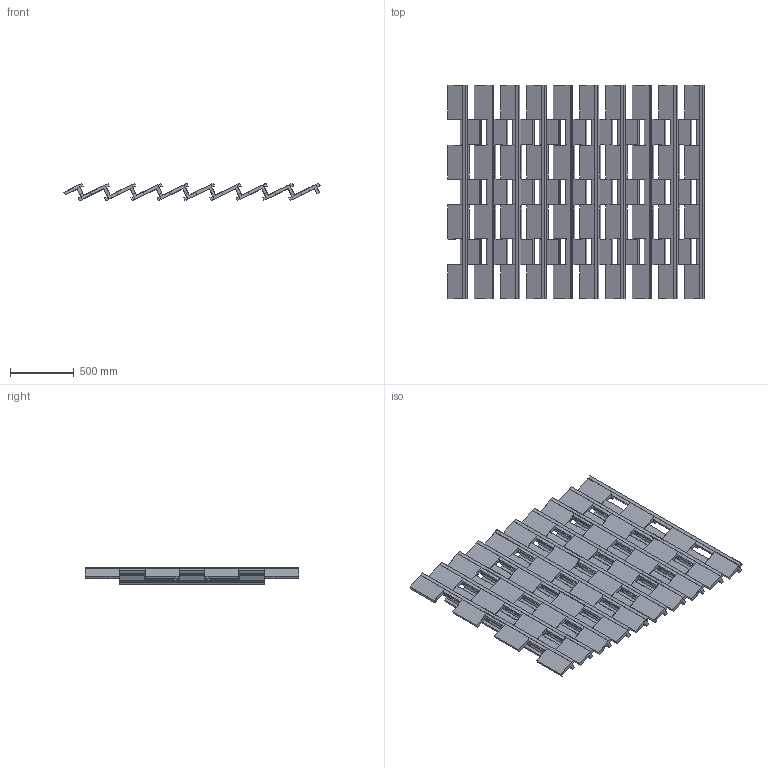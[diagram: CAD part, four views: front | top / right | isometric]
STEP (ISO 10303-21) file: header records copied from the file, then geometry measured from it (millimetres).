
FILE_DESCRIPTION (( 'STEP AP203' ), '1' );
FILE_NAME ('WEDGED PARAVENTO 02.STEP', '2024-05-28T05:25:17', ( '' ), ( '' ), 'SwSTEP 2.0', 'SolidWorks 2024', '' );
FILE_SCHEMA (( 'CONFIG_CONTROL_DESIGN' ));
Length unit declared in the file: millimetre
Products named in the file (2): WEDGED PARAVENTO 02; Group2^WEDGED PARAVENTO 02
Assembly tree (1 placements, depth 2):
  WEDGED PARAVENTO 02
    Group2^WEDGED PARAVENTO 02
Bounding box: 2001.23 x 1670 x 137.48 mm (x, y, z)
Volume: 93865675.9 mm3; surface area: 9404301.8 mm2
Topology: 19 solids, 19 shells, 4116 faces, 8022 edges, 3788 vertices
Faces by surface type: plane 4116
Entity records: 96898 total; most frequent: DIRECTION 16262, ORIENTED_EDGE 16044, CARTESIAN_POINT 15930, VECTOR 8022, EDGE_CURVE 8022, LINE 8022, AXIS2_PLACEMENT_3D 4120, FACE_OUTER_BOUND 4116
